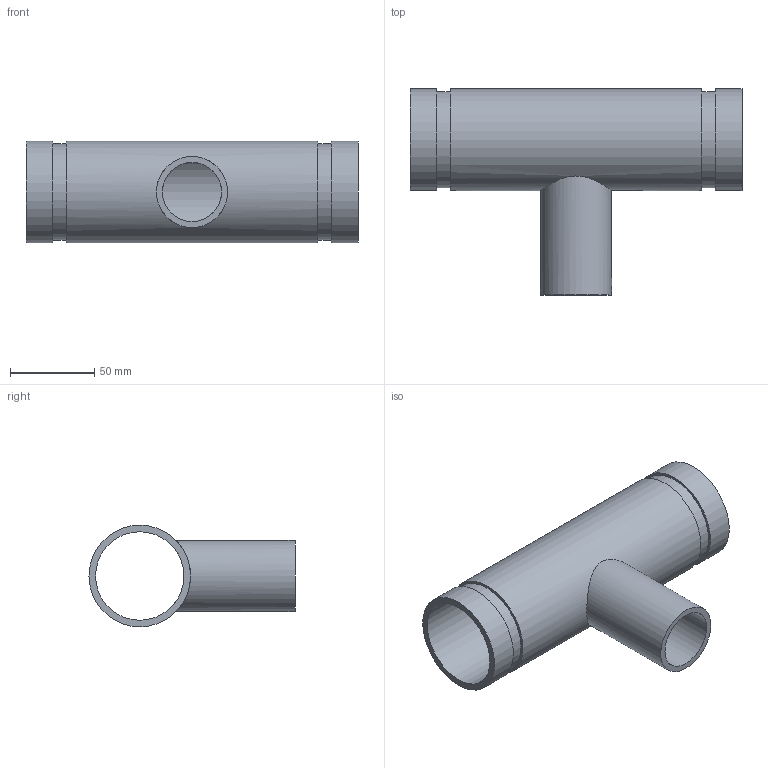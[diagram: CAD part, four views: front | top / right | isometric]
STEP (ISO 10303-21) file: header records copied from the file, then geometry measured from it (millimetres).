
FILE_DESCRIPTION(/* description */ ('VIC REDUCING TEE No 29T FFT (OGSxMPT)','CAx-IF Rec.Pracs.---Representation and Presentation of Product Manufacturing Information (PMI)---4.0---2014-10-13'),/* implementation_level */ '2;1');
FILE_NAME(/* name */ 'C:\Users\kkamble\AppData\Roaming\Autodesk\ApplicationPlugins\Back Up\Victaulic_IPS_Tee Reducing_No 29T FFT (OGSxMPT)\Victaulic_IPS_Tee Reducing_No 29T FFT (OGSxMPT)_02.0x01.25 (50x32).stp',/* time_stamp */ '2020-09-16T22:37:11+05:00',/* author */ ('CORINNE GRAY'),/* organization */ ('Victaulic'),/* preprocessor_version */ 'ST-DEVELOPER v17.2',/* originating_system */ 'Autodesk Inventor 2019',/* authorisation */ '');
FILE_SCHEMA (('AP242_MANAGED_MODEL_BASED_3D_ENGINEERING_MIM_LF { 1 0 10303 442 1 1 4 }'));
Length unit declared in the file: inch
Products named in the file (1): 29 FFT-02.0x01.25
Bounding box: 197.1 x 122.36 x 60.33 mm (x, y, z)
Volume: 156224 mm3; surface area: 86544.1 mm2
Topology: 1 solids, 1 shells, 15 faces, 32 edges, 24 vertices
Faces by surface type: cylinder 8, plane 7
Full cylindrical faces by diameter (mm): 35.052 x1, 42.164 x1, 52.502 x1, 57.15 x2, 60.325 x3
Entity records: 701 total; most frequent: CARTESIAN_POINT 213, DIRECTION 106, ORIENTED_EDGE 64, AXIS2_PLACEMENT_3D 49, EDGE_CURVE 32, EDGE_LOOP 24, VERTEX_POINT 24, CIRCLE 20
